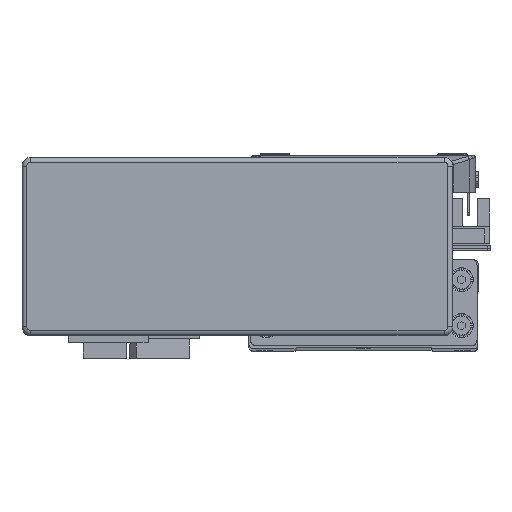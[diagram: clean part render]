
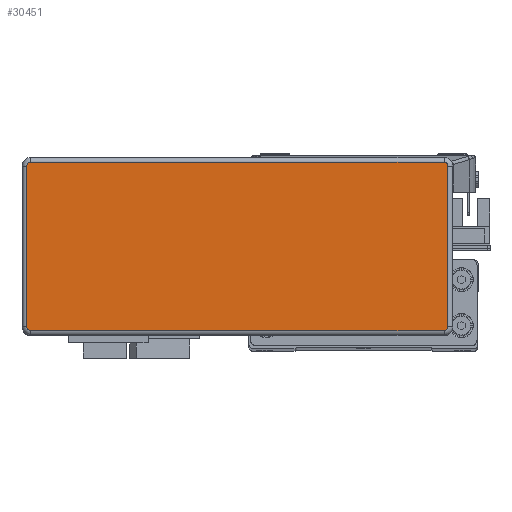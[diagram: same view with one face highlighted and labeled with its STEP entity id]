
A CAD part, top view. The second image highlights one B-rep face of the part: STEP entity #30451.
In plain terms, the highlighted planar face has unit normal (0, 0, 1) as drawn and (0, 0, -1) by its records, which use the part's own axes.
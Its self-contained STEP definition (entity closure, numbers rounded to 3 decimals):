
#579 = DIRECTION ( 'NONE',  ( 0., 0., 1. ) ) ;
#580 = CARTESIAN_POINT ( 'NONE',  ( 71.995, -27.995, -32.2 ) ) ;
#593 = PLANE ( 'NONE',  #6369 ) ;
#594 = DIRECTION ( 'NONE',  ( 1., 0., 0. ) ) ;
#5883 = AXIS2_PLACEMENT_3D ( 'NONE', #12621, #12609, #12635 ) ;
#5906 = AXIS2_PLACEMENT_3D ( 'NONE', #12908, #12923, #12939 ) ;
#5912 = AXIS2_PLACEMENT_3D ( 'NONE', #12611, #12643, #12644 ) ;
#5948 = AXIS2_PLACEMENT_3D ( 'NONE', #43044, #42998, #42975 ) ;
#6369 = AXIS2_PLACEMENT_3D ( 'NONE', #580, #579, #594 ) ;
#9063 = EDGE_CURVE ( 'NONE', #17917, #17927, #17560, .T. ) ;
#9073 = EDGE_CURVE ( 'NONE', #17927, #17973, #17553, .T. ) ;
#9074 = EDGE_CURVE ( 'NONE', #17989, #17947, #17588, .T. ) ;
#9100 = EDGE_CURVE ( 'NONE', #17987, #17917, #17599, .T. ) ;
#9130 = EDGE_CURVE ( 'NONE', #17973, #17929, #17648, .T. ) ;
#9151 = EDGE_CURVE ( 'NONE', #17947, #17961, #17691, .T. ) ;
#9179 = EDGE_CURVE ( 'NONE', #17929, #17989, #17678, .T. ) ;
#9187 = EDGE_CURVE ( 'NONE', #17961, #17987, #17710, .T. ) ;
#12609 = DIRECTION ( 'NONE',  ( 0., 0., -1. ) ) ;
#12611 = CARTESIAN_POINT ( 'NONE',  ( -71.995, 27.995, -32.2 ) ) ;
#12621 = CARTESIAN_POINT ( 'NONE',  ( 71.995, -27.995, -32.2 ) ) ;
#12635 = DIRECTION ( 'NONE',  ( 1., 0., 0. ) ) ;
#12639 = CARTESIAN_POINT ( 'NONE',  ( 71.995, -29.295, -32.2 ) ) ;
#12640 = DIRECTION ( 'NONE',  ( -1., 0., 0. ) ) ;
#12643 = DIRECTION ( 'NONE',  ( 0., 0., -1. ) ) ;
#12644 = DIRECTION ( 'NONE',  ( 1., 0., 0. ) ) ;
#12841 = CARTESIAN_POINT ( 'NONE',  ( 73.295, -27.995, -32.2 ) ) ;
#12844 = DIRECTION ( 'NONE',  ( 0., -1., 0. ) ) ;
#12908 = CARTESIAN_POINT ( 'NONE',  ( -71.995, -27.995, -32.2 ) ) ;
#12923 = DIRECTION ( 'NONE',  ( 0., 0., -1. ) ) ;
#12939 = DIRECTION ( 'NONE',  ( 1., 0., 0. ) ) ;
#13024 = CARTESIAN_POINT ( 'NONE',  ( 71.995, 29.295, -32.2 ) ) ;
#13032 = DIRECTION ( 'NONE',  ( 1., 0., 0. ) ) ;
#17553 = LINE ( 'NONE', #12639, #17558 ) ;
#17558 = VECTOR ( 'NONE', #12640, 1000. ) ;
#17560 = CIRCLE ( 'NONE', #5883, 1.3 ) ;
#17588 = CIRCLE ( 'NONE', #5912, 1.3 ) ;
#17599 = LINE ( 'NONE', #12841, #17646 ) ;
#17646 = VECTOR ( 'NONE', #12844, 1000. ) ;
#17648 = CIRCLE ( 'NONE', #5906, 1.3 ) ;
#17678 = LINE ( 'NONE', #42822, #17696 ) ;
#17691 = LINE ( 'NONE', #13024, #17717 ) ;
#17696 = VECTOR ( 'NONE', #42831, 1000. ) ;
#17710 = CIRCLE ( 'NONE', #5948, 1.3 ) ;
#17717 = VECTOR ( 'NONE', #13032, 1000. ) ;
#17785 = ORIENTED_EDGE ( 'NONE', *, *, #9063, .T. ) ;
#17797 = ORIENTED_EDGE ( 'NONE', *, *, #9073, .T. ) ;
#17798 = ORIENTED_EDGE ( 'NONE', *, *, #9130, .T. ) ;
#17802 = ORIENTED_EDGE ( 'NONE', *, *, #9100, .T. ) ;
#17843 = ORIENTED_EDGE ( 'NONE', *, *, #9074, .T. ) ;
#17859 = ORIENTED_EDGE ( 'NONE', *, *, #9179, .T. ) ;
#17896 = ORIENTED_EDGE ( 'NONE', *, *, #9187, .T. ) ;
#17907 = ORIENTED_EDGE ( 'NONE', *, *, #9151, .T. ) ;
#17917 = VERTEX_POINT ( 'NONE', #28627 ) ;
#17927 = VERTEX_POINT ( 'NONE', #28601 ) ;
#17929 = VERTEX_POINT ( 'NONE', #28638 ) ;
#17947 = VERTEX_POINT ( 'NONE', #28631 ) ;
#17961 = VERTEX_POINT ( 'NONE', #28551 ) ;
#17973 = VERTEX_POINT ( 'NONE', #28699 ) ;
#17987 = VERTEX_POINT ( 'NONE', #28688 ) ;
#17989 = VERTEX_POINT ( 'NONE', #28721 ) ;
#28551 = CARTESIAN_POINT ( 'NONE',  ( 71.995, 29.295, -32.2 ) ) ;
#28601 = CARTESIAN_POINT ( 'NONE',  ( 71.995, -29.295, -32.2 ) ) ;
#28627 = CARTESIAN_POINT ( 'NONE',  ( 73.295, -27.995, -32.2 ) ) ;
#28631 = CARTESIAN_POINT ( 'NONE',  ( -71.995, 29.295, -32.2 ) ) ;
#28638 = CARTESIAN_POINT ( 'NONE',  ( -73.295, -27.995, -32.2 ) ) ;
#28688 = CARTESIAN_POINT ( 'NONE',  ( 73.295, 27.995, -32.2 ) ) ;
#28699 = CARTESIAN_POINT ( 'NONE',  ( -71.995, -29.295, -32.2 ) ) ;
#28721 = CARTESIAN_POINT ( 'NONE',  ( -73.295, 27.995, -32.2 ) ) ;
#30451 = ADVANCED_FACE ( 'NONE', ( #36227 ), #593, .F. ) ;
#33605 = EDGE_LOOP ( 'NONE', ( #17802, #17785, #17797, #17798, #17859, #17843, #17907, #17896 ) ) ;
#36227 = FACE_OUTER_BOUND ( 'NONE', #33605, .T. ) ;
#42822 = CARTESIAN_POINT ( 'NONE',  ( -73.295, -27.995, -32.2 ) ) ;
#42831 = DIRECTION ( 'NONE',  ( 0., 1., 0. ) ) ;
#42975 = DIRECTION ( 'NONE',  ( 1., 0., 0. ) ) ;
#42998 = DIRECTION ( 'NONE',  ( 0., 0., -1. ) ) ;
#43044 = CARTESIAN_POINT ( 'NONE',  ( 71.995, 27.995, -32.2 ) ) ;
